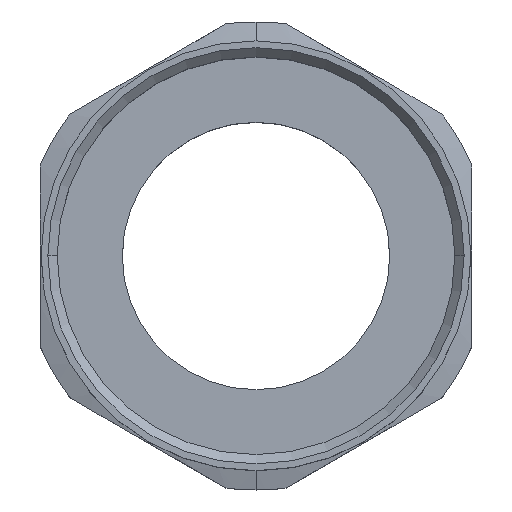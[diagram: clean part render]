
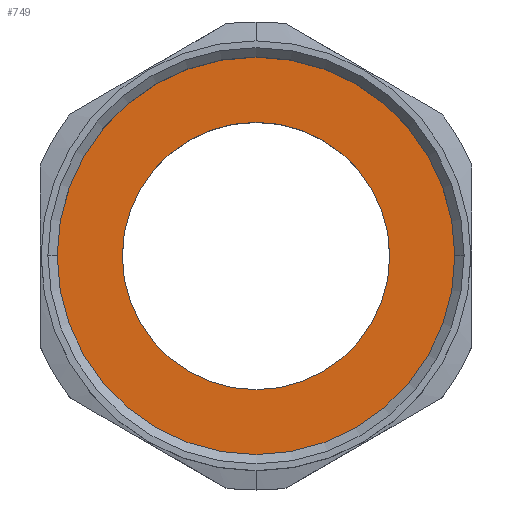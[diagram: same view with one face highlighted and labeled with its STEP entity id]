
A CAD part, top view. The second image highlights one B-rep face of the part: STEP entity #749.
In plain terms, the highlighted planar face has unit normal (0, 0, 1).
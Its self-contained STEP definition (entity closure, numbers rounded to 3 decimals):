
#342 = DIRECTION ( 'NONE',  ( 1., 0., 0. ) ) ;
#343 = DIRECTION ( 'NONE',  ( 0., 0., 1. ) ) ;
#352 = CARTESIAN_POINT ( 'NONE',  ( 0., 0., -13. ) ) ;
#353 = AXIS2_PLACEMENT_3D ( 'NONE', #352, #343, #342 ) ;
#354 = CIRCLE ( 'NONE', #353, 13. ) ;
#355 = CIRCLE ( 'NONE', #374, 19.335 ) ;
#372 = DIRECTION ( 'NONE',  ( 0., 0., 1. ) ) ;
#373 = CARTESIAN_POINT ( 'NONE',  ( 0., 0., -13. ) ) ;
#374 = AXIS2_PLACEMENT_3D ( 'NONE', #373, #372, #392 ) ;
#389 = CARTESIAN_POINT ( 'NONE',  ( -13., 0., -13. ) ) ;
#390 = CARTESIAN_POINT ( 'NONE',  ( 13., 0., -13. ) ) ;
#391 = CARTESIAN_POINT ( 'NONE',  ( -19.335, 0., -13. ) ) ;
#392 = DIRECTION ( 'NONE',  ( 1., 0., 0. ) ) ;
#513 = CARTESIAN_POINT ( 'NONE',  ( 19.335, 0., -13. ) ) ;
#716 = EDGE_LOOP ( 'NONE', ( #773, #721 ) ) ;
#717 = ORIENTED_EDGE ( 'NONE', *, *, #1287, .T. ) ;
#720 = EDGE_CURVE ( 'NONE', #1281, #1278, #1483, .T. ) ;
#721 = ORIENTED_EDGE ( 'NONE', *, *, #1280, .F. ) ;
#749 = ADVANCED_FACE ( 'NONE', ( #1546, #1545 ), #1568, .T. ) ;
#762 = EDGE_CURVE ( 'NONE', #1371, #1288, #1579, .T. ) ;
#765 = EDGE_LOOP ( 'NONE', ( #766, #717 ) ) ;
#766 = ORIENTED_EDGE ( 'NONE', *, *, #762, .T. ) ;
#773 = ORIENTED_EDGE ( 'NONE', *, *, #720, .F. ) ;
#1278 = VERTEX_POINT ( 'NONE', #389 ) ;
#1280 = EDGE_CURVE ( 'NONE', #1278, #1281, #354, .T. ) ;
#1281 = VERTEX_POINT ( 'NONE', #390 ) ;
#1287 = EDGE_CURVE ( 'NONE', #1288, #1371, #355, .T. ) ;
#1288 = VERTEX_POINT ( 'NONE', #391 ) ;
#1371 = VERTEX_POINT ( 'NONE', #513 ) ;
#1468 = CARTESIAN_POINT ( 'NONE',  ( 0., 0., -13. ) ) ;
#1480 = DIRECTION ( 'NONE',  ( 1., 0., 0. ) ) ;
#1481 = DIRECTION ( 'NONE',  ( 0., 0., 1. ) ) ;
#1482 = AXIS2_PLACEMENT_3D ( 'NONE', #1468, #1481, #1480 ) ;
#1483 = CIRCLE ( 'NONE', #1482, 13. ) ;
#1545 = FACE_BOUND ( 'NONE', #716, .T. ) ;
#1546 = FACE_OUTER_BOUND ( 'NONE', #765, .T. ) ;
#1564 = DIRECTION ( 'NONE',  ( 1., 0., 0. ) ) ;
#1565 = DIRECTION ( 'NONE',  ( 0., 0., 1. ) ) ;
#1566 = CARTESIAN_POINT ( 'NONE',  ( 0., 19.335, -13. ) ) ;
#1567 = AXIS2_PLACEMENT_3D ( 'NONE', #1566, #1565, #1564 ) ;
#1568 = PLANE ( 'NONE',  #1567 ) ;
#1575 = DIRECTION ( 'NONE',  ( 1., 0., 0. ) ) ;
#1576 = DIRECTION ( 'NONE',  ( 0., 0., 1. ) ) ;
#1577 = CARTESIAN_POINT ( 'NONE',  ( 0., 0., -13. ) ) ;
#1578 = AXIS2_PLACEMENT_3D ( 'NONE', #1577, #1576, #1575 ) ;
#1579 = CIRCLE ( 'NONE', #1578, 19.335 ) ;
